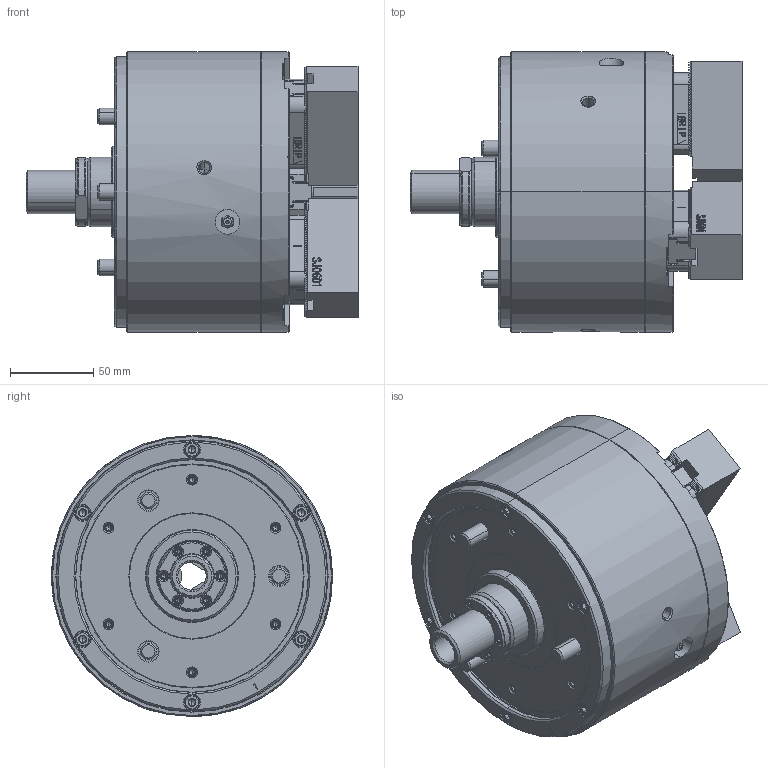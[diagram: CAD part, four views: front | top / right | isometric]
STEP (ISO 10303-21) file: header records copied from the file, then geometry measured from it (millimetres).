
FILE_DESCRIPTION (( 'STEP AP214' ), '1' );
FILE_NAME ('DL206_CL.STEP', '2022-09-07T05:26:55', ( '' ), ( '' ), 'SwSTEP 2.0', 'SolidWorks 2020', '' );
FILE_SCHEMA (( 'AUTOMOTIVE_DESIGN' ));
Length unit declared in the file: millimetre
Products named in the file (5): 0030110025; 結合DL206_CL^DL206; 61P385747; 61P456464; DL206_CL
Assembly tree (13 placements, depth 2):
  DL206_CL
    61P385747  x3
    61P456464  x3
    0030110025  x6
    結合DL206_CL^DL206
Bounding box: 199.7 x 169 x 169 mm (x, y, z)
Volume: 2462018.8 mm3; surface area: 244969.8 mm2
Topology: 13 solids, 51 shells, 5971 faces, 16377 edges, 10677 vertices
Faces by surface type: plane 3540, bspline 1071, cylinder 707, cone 621, torus 28, sphere 4
Entity records: 192264 total; most frequent: CARTESIAN_POINT 73114, ORIENTED_EDGE 27232, DIRECTION 20327, EDGE_CURVE 13616, LINE 9013, VECTOR 9013, VERTEX_POINT 8955, AXIS2_PLACEMENT_3D 5657
